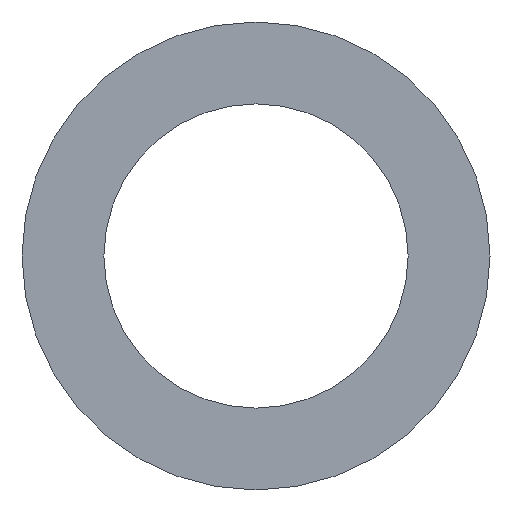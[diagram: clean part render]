
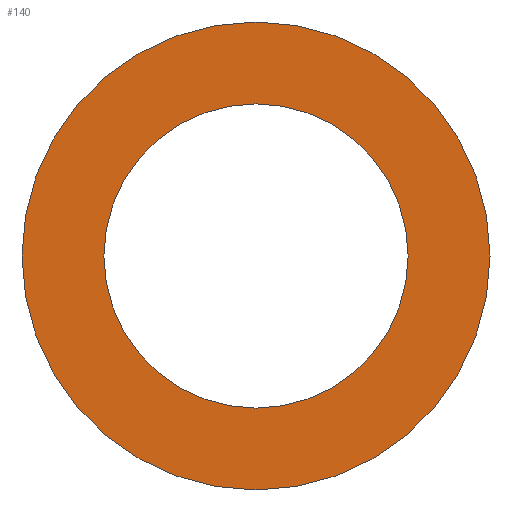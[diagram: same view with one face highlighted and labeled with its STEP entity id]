
A CAD part, front view. The second image highlights one B-rep face of the part: STEP entity #140.
In plain terms, the highlighted planar face has unit normal (0, -1, 0).
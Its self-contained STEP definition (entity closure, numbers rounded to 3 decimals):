
#31 = CYLINDRICAL_SURFACE('',#32,6.4);
#32 = AXIS2_PLACEMENT_3D('',#33,#34,#35);
#33 = CARTESIAN_POINT('',(-248.5,104.5,68.));
#34 = DIRECTION('',(0.,1.,0.));
#35 = DIRECTION('',(0.,-0.,1.));
#56 = VERTEX_POINT('',#57);
#57 = CARTESIAN_POINT('',(-248.5,104.5,74.4));
#78 = EDGE_CURVE('',#56,#56,#79,.T.);
#79 = SURFACE_CURVE('',#80,(#85,#92),.PCURVE_S1.);
#80 = CIRCLE('',#81,6.4);
#81 = AXIS2_PLACEMENT_3D('',#82,#83,#84);
#82 = CARTESIAN_POINT('',(-248.5,104.5,68.));
#83 = DIRECTION('',(0.,1.,0.));
#84 = DIRECTION('',(0.,-0.,1.));
#85 = PCURVE('',#31,#86);
#86 = DEFINITIONAL_REPRESENTATION('',(#87),#91);
#87 = LINE('',#88,#89);
#88 = CARTESIAN_POINT('',(0.,0.));
#89 = VECTOR('',#90,1.);
#90 = DIRECTION('',(1.,0.));
#91 = ( GEOMETRIC_REPRESENTATION_CONTEXT(2) 
PARAMETRIC_REPRESENTATION_CONTEXT() REPRESENTATION_CONTEXT('2D SPACE',''
  ) );
#92 = PCURVE('',#93,#98);
#93 = PLANE('',#94);
#94 = AXIS2_PLACEMENT_3D('',#95,#96,#97);
#95 = CARTESIAN_POINT('',(-248.5,104.5,68.));
#96 = DIRECTION('',(0.,1.,0.));
#97 = DIRECTION('',(0.,-0.,1.));
#98 = DEFINITIONAL_REPRESENTATION('',(#99),#103);
#99 = CIRCLE('',#100,6.4);
#100 = AXIS2_PLACEMENT_2D('',#101,#102);
#101 = CARTESIAN_POINT('',(0.,0.));
#102 = DIRECTION('',(1.,0.));
#103 = ( GEOMETRIC_REPRESENTATION_CONTEXT(2) 
PARAMETRIC_REPRESENTATION_CONTEXT() REPRESENTATION_CONTEXT('2D SPACE',''
  ) );
#129 = CYLINDRICAL_SURFACE('',#130,4.16);
#130 = AXIS2_PLACEMENT_3D('',#131,#132,#133);
#131 = CARTESIAN_POINT('',(-248.5,104.,68.));
#132 = DIRECTION('',(0.,1.,0.));
#133 = DIRECTION('',(0.,-0.,1.));
#140 = ADVANCED_FACE('',(#141,#144),#93,.F.);
#141 = FACE_BOUND('',#142,.F.);
#142 = EDGE_LOOP('',(#143));
#143 = ORIENTED_EDGE('',*,*,#78,.T.);
#144 = FACE_BOUND('',#145,.F.);
#145 = EDGE_LOOP('',(#146));
#146 = ORIENTED_EDGE('',*,*,#147,.F.);
#147 = EDGE_CURVE('',#148,#148,#150,.T.);
#148 = VERTEX_POINT('',#149);
#149 = CARTESIAN_POINT('',(-248.5,104.5,72.16));
#150 = SURFACE_CURVE('',#151,(#156,#163),.PCURVE_S1.);
#151 = CIRCLE('',#152,4.16);
#152 = AXIS2_PLACEMENT_3D('',#153,#154,#155);
#153 = CARTESIAN_POINT('',(-248.5,104.5,68.));
#154 = DIRECTION('',(0.,1.,0.));
#155 = DIRECTION('',(0.,-0.,1.));
#156 = PCURVE('',#93,#157);
#157 = DEFINITIONAL_REPRESENTATION('',(#158),#162);
#158 = CIRCLE('',#159,4.16);
#159 = AXIS2_PLACEMENT_2D('',#160,#161);
#160 = CARTESIAN_POINT('',(0.,0.));
#161 = DIRECTION('',(1.,0.));
#162 = ( GEOMETRIC_REPRESENTATION_CONTEXT(2) 
PARAMETRIC_REPRESENTATION_CONTEXT() REPRESENTATION_CONTEXT('2D SPACE',''
  ) );
#163 = PCURVE('',#129,#164);
#164 = DEFINITIONAL_REPRESENTATION('',(#165),#169);
#165 = LINE('',#166,#167);
#166 = CARTESIAN_POINT('',(0.,0.5));
#167 = VECTOR('',#168,1.);
#168 = DIRECTION('',(1.,0.));
#169 = ( GEOMETRIC_REPRESENTATION_CONTEXT(2) 
PARAMETRIC_REPRESENTATION_CONTEXT() REPRESENTATION_CONTEXT('2D SPACE',''
  ) );
